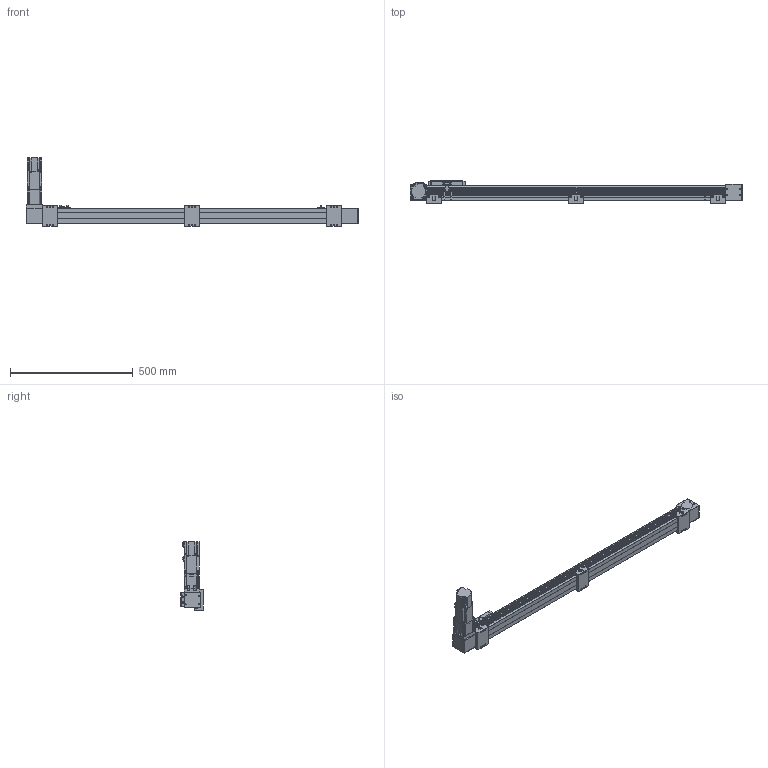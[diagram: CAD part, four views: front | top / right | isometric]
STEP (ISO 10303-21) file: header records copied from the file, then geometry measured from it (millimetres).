
FILE_DESCRIPTION(/* description */ ('STEP AP203'),/* implementation_level */ '2;1');
FILE_NAME(/* name */ 'SK60-P13-S1050-BL-T40-C1-N(0)',/* time_stamp */ '2023-04-06T03:36:39+02:00',/* author */ ('License CC BY-ND 4.0'),/* organization */ ('CADENAS'),/* preprocessor_version */ 'ST-DEVELOPER v19.3',/* originating_system */ 'PARTsolutions',/* authorisation */ ' ');
FILE_SCHEMA (('CONFIG_CONTROL_DESIGN'));
Length unit declared in the file: millimetre
Products named in the file (11): SK60-P13-S1050-BL-T40-C1-N(0); PSC140-sensor; SK60-S450_seat; SK60-S450-BL-C1_slider; SK60_body3; SK60_body6; SK60-BL_body2; T40-p1; SK60_body5; SK60_body4; SK60-S1050-BL-C1_body
Assembly tree (18 placements, depth 2):
  SK60-P13-S1050-BL-T40-C1-N(0)
    PSC140-sensor  x3
    SK60-S450_seat  x3
    SK60-S450-BL-C1_slider
    SK60_body3  x3
    SK60_body6  x2
    SK60-BL_body2  x2
    T40-p1
    SK60_body5
    SK60_body4
    SK60-S1050-BL-C1_body
Bounding box: 1350 x 90 x 278.2 mm (x, y, z)
Volume: 5221562.1 mm3; surface area: 704960.5 mm2
Topology: 18 solids, 22 shells, 878 faces, 2207 edges, 1458 vertices
Faces by surface type: plane 568, cylinder 282, cone 26, torus 2
Full cylindrical faces by diameter (mm): 2.8 x3, 3.3 x4, 4.2 x8, 4.5 x26, 4.6 x3, 4.917 x20, 5 x2, 5.478 x4, 5.5 x23, 6.5 x6, 8 x4, 8.5 x4, 9.988 x4, 10 x12, 13.556 x1, 14 x1, 14.586 x1, 19.692 x1, 38.432 x2, 43 x1, 44 x3, 47 x2, 50 x2
Entity records: 19379 total; most frequent: DIRECTION 3294, CARTESIAN_POINT 3290, ORIENTED_EDGE 3050, EDGE_CURVE 1525, AXIS2_PLACEMENT_3D 1101, LINE 1092, VECTOR 1092, VERTEX_POINT 1077
